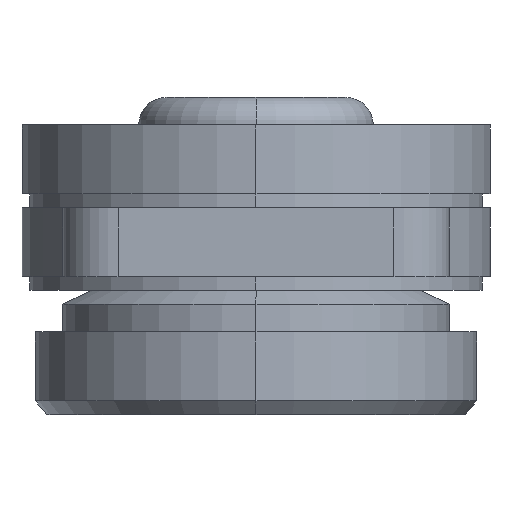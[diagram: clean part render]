
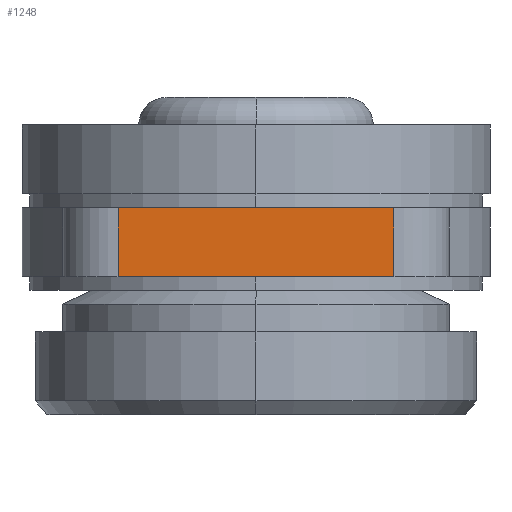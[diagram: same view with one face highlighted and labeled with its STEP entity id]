
A CAD part, left-side view. The second image highlights one B-rep face of the part: STEP entity #1248.
In plain terms, the highlighted planar face has unit normal (-1, 0, 0).
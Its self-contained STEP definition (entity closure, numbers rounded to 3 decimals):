
#120 = VERTEX_POINT ( 'NONE', #1532 ) ;
#343 = ORIENTED_EDGE ( 'NONE', *, *, #958, .F. ) ;
#503 = LINE ( 'NONE', #2140, #924 ) ;
#540 = DIRECTION ( 'NONE',  ( 0., -1., 0. ) ) ;
#638 = EDGE_CURVE ( 'NONE', #1711, #1573, #2056, .T. ) ;
#768 = CARTESIAN_POINT ( 'NONE',  ( -43., 5., -3. ) ) ;
#769 = VECTOR ( 'NONE', #1516, 1000. ) ;
#796 = ORIENTED_EDGE ( 'NONE', *, *, #638, .F. ) ;
#806 = VECTOR ( 'NONE', #1629, 1000. ) ;
#906 = CARTESIAN_POINT ( 'NONE',  ( -43., -5., -0.5 ) ) ;
#924 = VECTOR ( 'NONE', #1499, 1000. ) ;
#958 = EDGE_CURVE ( 'NONE', #1573, #2074, #1371, .T. ) ;
#1007 = AXIS2_PLACEMENT_3D ( 'NONE', #1355, #1706, #2049 ) ;
#1043 = ORIENTED_EDGE ( 'NONE', *, *, #1770, .T. ) ;
#1136 = EDGE_CURVE ( 'NONE', #1711, #120, #2167, .T. ) ;
#1196 = CARTESIAN_POINT ( 'NONE',  ( -43., 5., -3. ) ) ;
#1248 = ADVANCED_FACE ( 'NONE', ( #1888 ), #1690, .T. ) ;
#1351 = VECTOR ( 'NONE', #540, 1000. ) ;
#1355 = CARTESIAN_POINT ( 'NONE',  ( -43., 5., -3. ) ) ;
#1371 = LINE ( 'NONE', #2053, #1351 ) ;
#1499 = DIRECTION ( 'NONE',  ( 0., 0., 1. ) ) ;
#1516 = DIRECTION ( 'NONE',  ( 0., 0., 1. ) ) ;
#1532 = CARTESIAN_POINT ( 'NONE',  ( -43., -5., -3. ) ) ;
#1573 = VERTEX_POINT ( 'NONE', #1720 ) ;
#1593 = EDGE_LOOP ( 'NONE', ( #343, #796, #2104, #1043 ) ) ;
#1629 = DIRECTION ( 'NONE',  ( 0., -1., 0. ) ) ;
#1690 = PLANE ( 'NONE',  #1007 ) ;
#1706 = DIRECTION ( 'NONE',  ( -1., 0., 0. ) ) ;
#1711 = VERTEX_POINT ( 'NONE', #768 ) ;
#1720 = CARTESIAN_POINT ( 'NONE',  ( -43., 5., -0.5 ) ) ;
#1770 = EDGE_CURVE ( 'NONE', #120, #2074, #503, .T. ) ;
#1888 = FACE_OUTER_BOUND ( 'NONE', #1593, .T. ) ;
#2000 = CARTESIAN_POINT ( 'NONE',  ( -43., 5., -3. ) ) ;
#2049 = DIRECTION ( 'NONE',  ( 0., 0., 1. ) ) ;
#2053 = CARTESIAN_POINT ( 'NONE',  ( -43., 5., -0.5 ) ) ;
#2056 = LINE ( 'NONE', #1196, #769 ) ;
#2074 = VERTEX_POINT ( 'NONE', #906 ) ;
#2104 = ORIENTED_EDGE ( 'NONE', *, *, #1136, .T. ) ;
#2140 = CARTESIAN_POINT ( 'NONE',  ( -43., -5., -3. ) ) ;
#2167 = LINE ( 'NONE', #2000, #806 ) ;
